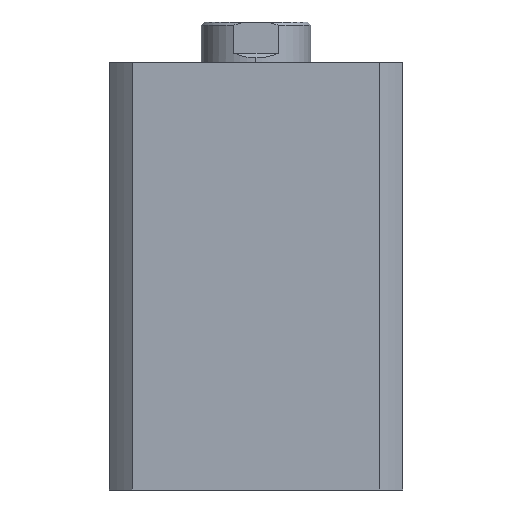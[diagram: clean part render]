
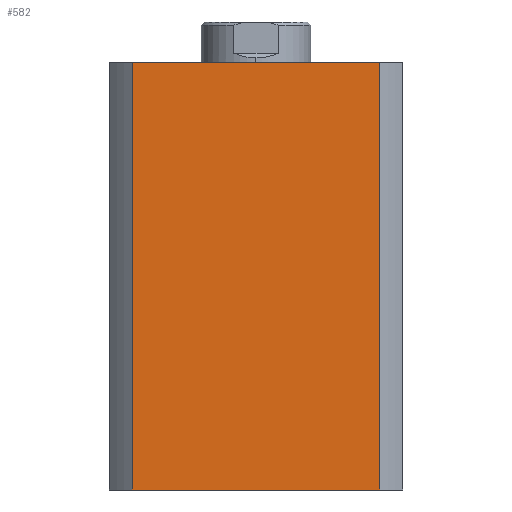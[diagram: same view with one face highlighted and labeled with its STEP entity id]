
A CAD part, left-side view. The second image highlights one B-rep face of the part: STEP entity #582.
In plain terms, the highlighted planar face has unit normal (-1, 0, 0).
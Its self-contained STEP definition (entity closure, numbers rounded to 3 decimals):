
#365 = CARTESIAN_POINT ( 'NONE',  ( -47., 39.664, 0. ) ) ;
#582 = ADVANCED_FACE ( 'NONE', ( #2017 ), #739, .F. ) ;
#735 = CARTESIAN_POINT ( 'NONE',  ( -47., 0., 137. ) ) ;
#739 = PLANE ( 'NONE',  #2316 ) ;
#742 = DIRECTION ( 'NONE',  ( 1., 0., 0. ) ) ;
#743 = DIRECTION ( 'NONE',  ( 0., 0., -1. ) ) ;
#745 = CARTESIAN_POINT ( 'NONE',  ( -47., -39.664, 0. ) ) ;
#995 = DIRECTION ( 'NONE',  ( 0., -1., 0. ) ) ;
#999 = CARTESIAN_POINT ( 'NONE',  ( -47., 0., 137. ) ) ;
#1483 = VERTEX_POINT ( 'NONE', #745 ) ;
#1550 = VERTEX_POINT ( 'NONE', #365 ) ;
#2017 = FACE_OUTER_BOUND ( 'NONE', #4510, .T. ) ;
#2193 = LINE ( 'NONE', #999, #2195 ) ;
#2195 = VECTOR ( 'NONE', #995, 1000. ) ;
#2233 = LINE ( 'NONE', #3433, #2239 ) ;
#2235 = LINE ( 'NONE', #3431, #2237 ) ;
#2237 = VECTOR ( 'NONE', #3424, 1000. ) ;
#2238 = LINE ( 'NONE', #3439, #2241 ) ;
#2239 = VECTOR ( 'NONE', #3438, 1000. ) ;
#2241 = VECTOR ( 'NONE', #3441, 1000. ) ;
#2316 = AXIS2_PLACEMENT_3D ( 'NONE', #735, #742, #743 ) ;
#2525 = EDGE_CURVE ( 'NONE', #3637, #3630, #2193, .T. ) ;
#2558 = EDGE_CURVE ( 'NONE', #3637, #1550, #2235, .T. ) ;
#2559 = EDGE_CURVE ( 'NONE', #1550, #1483, #2233, .T. ) ;
#2560 = EDGE_CURVE ( 'NONE', #3630, #1483, #2238, .T. ) ;
#3015 = CARTESIAN_POINT ( 'NONE',  ( -47., -39.664, 137. ) ) ;
#3021 = CARTESIAN_POINT ( 'NONE',  ( -47., 39.664, 137. ) ) ;
#3424 = DIRECTION ( 'NONE',  ( 0., 0., -1. ) ) ;
#3431 = CARTESIAN_POINT ( 'NONE',  ( -47., 39.664, 137. ) ) ;
#3433 = CARTESIAN_POINT ( 'NONE',  ( -47., 0., 0. ) ) ;
#3438 = DIRECTION ( 'NONE',  ( 0., -1., 0. ) ) ;
#3439 = CARTESIAN_POINT ( 'NONE',  ( -47., -39.664, 137. ) ) ;
#3441 = DIRECTION ( 'NONE',  ( 0., 0., -1. ) ) ;
#3630 = VERTEX_POINT ( 'NONE', #3015 ) ;
#3637 = VERTEX_POINT ( 'NONE', #3021 ) ;
#4510 = EDGE_LOOP ( 'NONE', ( #4850, #4851, #4852, #4853 ) ) ;
#4850 = ORIENTED_EDGE ( 'NONE', *, *, #2559, .T. ) ;
#4851 = ORIENTED_EDGE ( 'NONE', *, *, #2560, .F. ) ;
#4852 = ORIENTED_EDGE ( 'NONE', *, *, #2525, .F. ) ;
#4853 = ORIENTED_EDGE ( 'NONE', *, *, #2558, .T. ) ;
